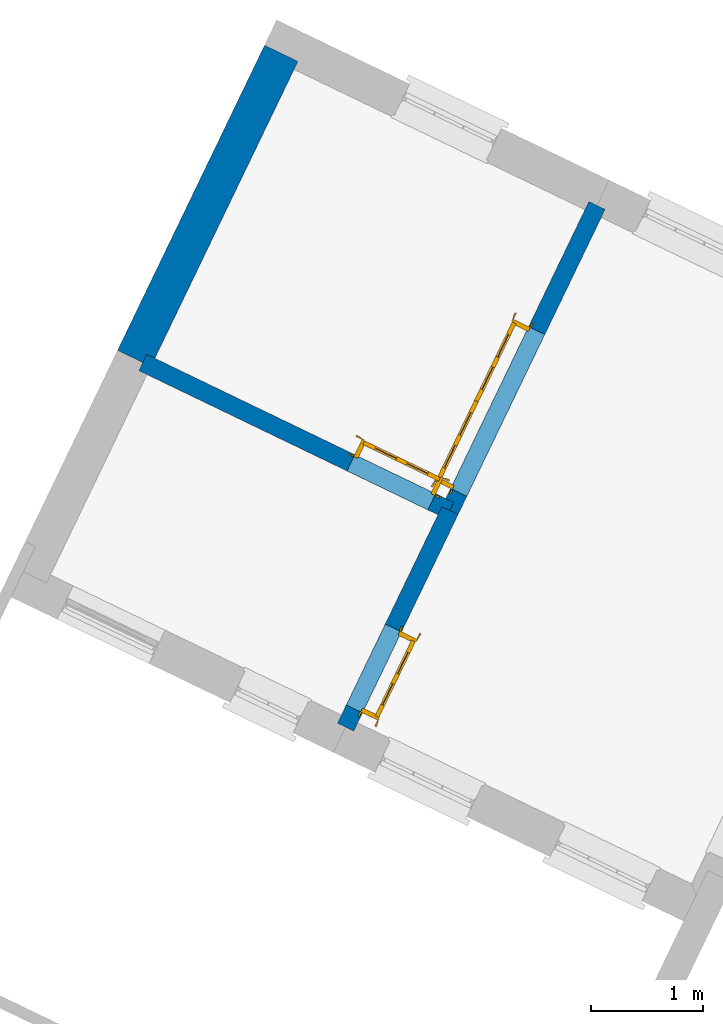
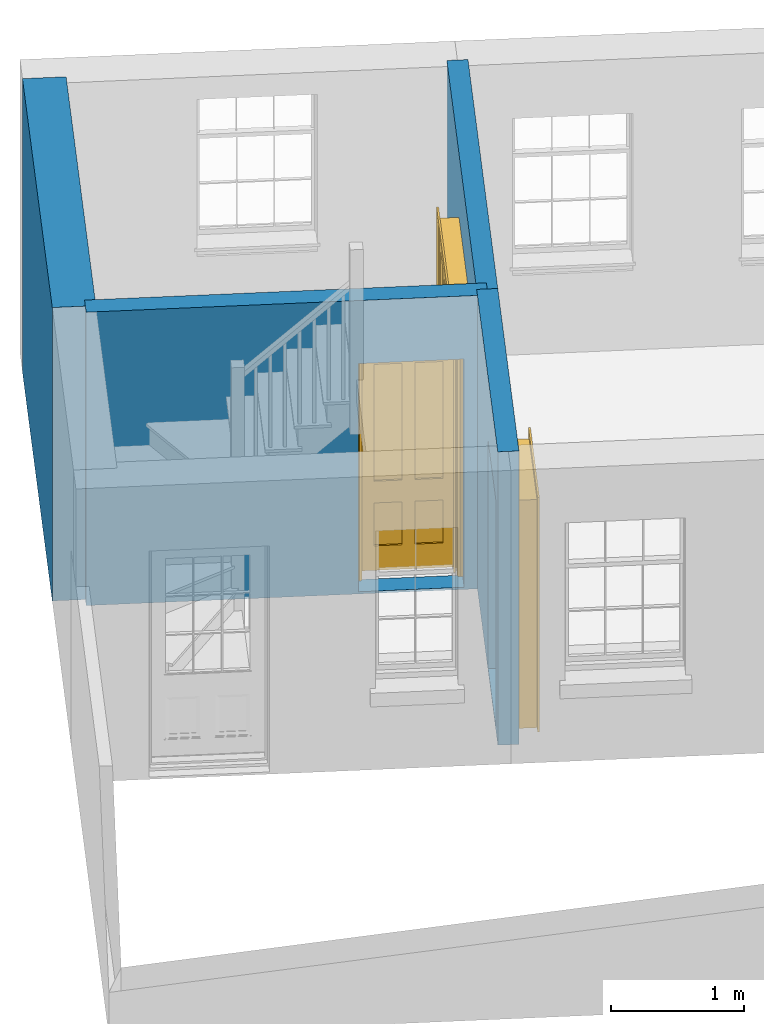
# One storey, part 3 of 5: 4 walls, 3 doors, 3 openings.
"""IFC4 building model written with IfcOpenShell, lengths in metres."""

from ifc_helpers import new_model, si_unit, frame, origin, origin_with_axes, place, context, subcontext, project, spatial, polyline, outline, extrude, faceted_brep, source, transform, mapped, material, layer, layer_set, layer_usage, type_object, type_shapes, element, fill, save


model = new_model("IFC4")

# Units and contexts
model_context = context("Model", 3, world=origin_with_axes())
body_context = subcontext(model_context, "Body", "Model", "MODEL_VIEW")
ifc_project = project(units=[si_unit("PLANEANGLEUNIT", "RADIAN"), si_unit("MASSUNIT", "GRAM", prefix="KILO"), si_unit("FORCEUNIT", "NEWTON", prefix="KILO"), si_unit("LENGTHUNIT", "METRE"), si_unit("AREAUNIT", "SQUARE_METRE"), si_unit("VOLUMEUNIT", "CUBIC_METRE")], contexts=[model_context, model_context])

# Sites, building, storey
site_1_placement = place(None, origin_with_axes())
site_1 = spatial("IfcSite", under=ifc_project, at=site_1_placement, Name="Tamar")
site_2_placement = place(site_1_placement, origin_with_axes())
site_2 = spatial("IfcSite", under=site_1, at=site_2_placement, Name="Site plot-2", CompositionType="ELEMENT")
building_placement = place(None, origin_with_axes())
building = spatial("IfcBuilding", under=site_2, at=building_placement, Name="Building plot-2", CompositionType="ELEMENT")
storey_placement = place(None, frame((0.0, 0.0, 26.0), z_axis=(0.0, 0.0, 1.0), x_axis=(1.0, 0.0, 0.0)))
storey = spatial("IfcBuildingStorey", under=building, at=storey_placement, Name="plot-2 0", CompositionType="ELEMENT", Elevation=26.0)

# Wall
ifc_material_1 = material(Name="Masonry")
ifc_layer_1 = layer(ifc_material_1, 0.33, ventilated=False)
ifc_layer_set_1 = layer_set([ifc_layer_1], Name="party_0.08_0.25")
ifc_layer_usage_1 = layer_usage(ifc_layer_set_1, "AXIS2", "POSITIVE", -0.25)
wall_type_1 = type_object("IfcWallType", Name="party_0.08_0.25", PredefinedType="SOLIDWALL", material=ifc_layer_set_1)
wall_1_placement = place(storey_placement, frame((229.956443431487, 295.955615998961, 0.0), z_axis=(0.0, 0.0, 1.0), x_axis=(-0.43411738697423, -0.900856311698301, 0.0)))
element("IfcWall", 1, at=wall_1_placement, inside=storey, type_object=wall_type_1, material=ifc_layer_usage_1, Name="party", context=body_context, shape_type="SweptSolid", body=[
    extrude(outline(polyline([(-1.26623564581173e-14, 0.0799999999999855), (-2.62969775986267e-14, -0.249999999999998), (3.01696753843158, -0.249999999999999), (3.01696753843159, 0.0799999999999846), (-1.26623564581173e-14, 0.0799999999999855)])), origin_with_axes(), (0.0, 0.0, 1.0), 2.7),
])

# Wall, opening, door
ifc_material_2 = material(Name="Masonry")
ifc_layer_2 = layer(ifc_material_2, 0.16, ventilated=False)
ifc_layer_set_2 = layer_set([ifc_layer_2], Name="interior_0.08_0.08")
ifc_layer_usage_2 = layer_usage(ifc_layer_set_2, "AXIS2", "POSITIVE", -0.08)
wall_type_2 = type_object("IfcWallType", Name="interior_0.08_0.08", PredefinedType="SOLIDWALL", material=ifc_layer_set_2)
wall_2_placement = place(storey_placement, frame((228.646725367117, 293.237761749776, 0.0), z_axis=(0.0, 0.0, 1.0), x_axis=(0.900856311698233, -0.434117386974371, 0.0)))
wall_2 = element("IfcWall", 2, at=wall_2_placement, inside=storey, type_object=wall_type_2, material=ifc_layer_usage_2, Name="interior", context=body_context, shape_type="SweptSolid", body=[
    extrude(outline(polyline([(-1.18611651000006e-14, 0.0800000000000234), (1.18513679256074e-14, -0.0800000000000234), (3.03765432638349, -0.0800000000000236), (3.03765432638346, 0.0800000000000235), (-1.18611651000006e-14, 0.0800000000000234)])), origin_with_axes(), (0.0, 0.0, 1.0), 2.7),
])
opening_1_placement = place(wall_2_placement, frame((2.05765432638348, 0.0, 0.0199999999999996)))
opening_1 = element("IfcOpeningElement", 3, at=opening_1_placement, cuts=wall_2, Name="My Opening", ObjectType="Opening", context=body_context, shape_type="SweptSolid", body=[
    extrude(outline(polyline([(0.0, -0.100000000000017), (0.800000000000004, -0.100000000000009), (0.800000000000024, 1.1), (1.99840144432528e-14, 1.09999999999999), (0.0, -0.100000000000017)])), origin_with_axes(), (0.0, 0.0, 1.0), 2.1),
])
door_type_1 = type_object("IfcDoorType", Name="door_inside", OperationType="SINGLE_SWING_LEFT", PredefinedType="NOTDEFINED")
shared_shape_1 = source(origin(), body_context, "Body", "Brep", [
    faceted_brep([(0.773, 0.33, 1.895), (0.66, 0.33, 1.895), (0.66, 0.33, 2.073), (0.773, 0.33, 2.073), (0.773, 0.33, 0.82), (0.66, 0.33, 0.82), (0.45, 0.33, 1.895), (0.45, 0.33, 2.073), (0.773, 0.33, 0.62), (0.66, 0.33, 0.62), (0.66, 0.315, 0.82), (0.66, 0.315, 1.895), (0.45, 0.315, 1.895), (0.35, 0.33, 1.895), (0.35, 0.33, 2.073), (0.773, 0.33, 0.225), (0.66, 0.33, 0.225), (0.45, 0.33, 0.62), (0.45, 0.33, 0.82), (0.45, 0.315, 0.82), (0.35, 0.33, 0.82), (0.14, 0.33, 2.073), (0.14, 0.33, 1.895), (0.773, 0.33, 0.0), (0.66, 0.33, 0.0), (0.66, 0.315, 0.225), (0.66, 0.315, 0.62), (0.45, 0.315, 0.62), (0.35, 0.33, 0.62), (0.35, 0.315, 0.82), (0.35, 0.315, 1.895), (0.14, 0.315, 1.895), (0.027, 0.33, 2.073), (0.027, 0.33, 1.895), (0.773, 0.292, 0.0), (0.66, 0.292, 0.0), (0.45, 0.33, 0.0), (0.45, 0.33, 0.225), (0.45, 0.315, 0.225), (0.35, 0.33, 0.225), (0.14, 0.33, 0.82), (0.14, 0.33, 0.62), (0.14, 0.315, 0.82), (0.027, 0.33, 0.82), (0.773, 0.292, 0.225), (0.66, 0.292, 0.225), (0.45, 0.292, 0.0), (0.35, 0.33, 0.0), (0.35, 0.315, 0.225), (0.35, 0.315, 0.62), (0.14, 0.315, 0.62), (0.027, 0.33, 0.62), (0.773, 0.292, 0.62), (0.66, 0.292, 0.62), (0.45, 0.292, 0.225), (0.35, 0.292, 0.0), (0.14, 0.33, 0.225), (0.14, 0.33, 0.0), (0.14, 0.315, 0.225), (0.027, 0.33, 0.225), (0.773, 0.292, 0.82), (0.66, 0.292, 0.82), (0.66, 0.307, 0.62), (0.66, 0.307, 0.225), (0.45, 0.307, 0.225), (0.35, 0.292, 0.225), (0.14, 0.292, 0.0), (0.027, 0.33, 0.0), (0.773, 0.292, 1.895), (0.66, 0.292, 1.895), (0.45, 0.292, 0.62), (0.45, 0.292, 0.82), (0.45, 0.307, 0.62), (0.35, 0.292, 0.62), (0.14, 0.292, 0.225), (0.027, 0.292, 0.0), (0.773, 0.292, 2.073), (0.66, 0.292, 2.073), (0.66, 0.307, 1.895), (0.66, 0.307, 0.82), (0.45, 0.307, 0.82), (0.35, 0.292, 0.82), (0.35, 0.307, 0.62), (0.35, 0.307, 0.225), (0.14, 0.307, 0.225), (0.027, 0.292, 0.225), (0.45, 0.292, 1.895), (0.45, 0.292, 2.073), (0.45, 0.307, 1.895), (0.35, 0.292, 1.895), (0.14, 0.292, 0.82), (0.14, 0.292, 0.62), (0.14, 0.307, 0.62), (0.027, 0.292, 0.62), (0.35, 0.292, 2.073), (0.35, 0.307, 1.895), (0.35, 0.307, 0.82), (0.14, 0.307, 0.82), (0.027, 0.292, 0.82), (0.14, 0.292, 2.073), (0.14, 0.292, 1.895), (0.14, 0.307, 1.895), (0.027, 0.292, 1.895), (0.027, 0.292, 2.073), (0.02, 0.335, 0.0), (0.005, 0.34, 0.0), (0.005, 0.34, 2.095), (0.02, 0.335, 2.08), (0.02, 0.33, 0.0), (0.0, 0.335, 0.0), (0.0, 0.335, 2.1), (0.795, 0.34, 2.095), (0.78, 0.335, 2.08), (0.02, 0.33, 2.08), (0.0, 0.33, 0.0), (-0.032, 0.345, 0.0), (-0.032, 0.345, 2.132), (0.8, 0.335, 2.1), (0.795, 0.34, 0.0), (0.78, 0.335, 0.0), (0.78, 0.33, 2.08), (0.04, 0.29, 0.0), (0.025, 0.29, 0.0), (0.025, 0.29, 2.075), (0.04, 0.29, 2.06), (-0.04, 0.34, 0.0), (-0.04, 0.34, 2.14), (0.832, 0.345, 2.132), (0.8, 0.335, 0.0), (0.78, 0.33, 0.0), (0.8, 0.33, 0.0), (0.86, 0.33, 0.0), (0.86, 0.33, 2.16), (0.8, 0.33, 2.1), (-0.06, 0.33, 2.16), (0.0, 0.33, 2.1), (-0.06, 0.33, 0.0), (-0.04, 0.345, 0.0), (-0.04, 0.345, 2.14), (0.84, 0.34, 2.14), (0.832, 0.345, 0.0), (0.84, 0.34, 0.0), (0.86, 0.345, 0.0), (0.86, 0.345, 2.16), (-0.06, 0.345, 2.16), (-0.06, 0.345, 0.0), (0.84, 0.345, 0.0), (0.84, 0.345, 2.14), (-0.025, 0.155, 0.0), (-0.025, 0.16, 0.0), (-0.025, 0.16, 2.125), (-0.025, 0.155, 2.125), (-0.017, 0.155, 0.0), (-0.017, 0.155, 2.117), (0.825, 0.16, 2.125), (0.825, 0.155, 2.125), (0.825, 0.155, 0.0), (0.845, 0.155, 0.0), (-0.045, 0.155, 2.145), (-0.045, 0.155, 0.0), (0.845, 0.155, 2.145), (0.015, 0.165, 0.0), (0.015, 0.165, 2.085), (0.817, 0.155, 2.117), (0.825, 0.16, 0.0), (0.845, 0.17, 0.0), (0.845, 0.17, 2.145), (-0.045, 0.17, 2.145), (-0.045, 0.17, 0.0), (0.02, 0.16, 0.0), (0.02, 0.16, 2.08), (0.785, 0.165, 2.085), (0.817, 0.155, 0.0), (0.8, 0.17, 0.0), (0.8, 0.17, 2.1), (0.0, 0.17, 2.1), (0.0, 0.17, 0.0), (0.035, 0.165, 0.0), (0.035, 0.165, 2.065), (0.78, 0.16, 2.08), (0.785, 0.165, 0.0), (0.775, 0.29, 2.075), (0.76, 0.29, 2.06), (0.035, 0.17, 2.065), (0.035, 0.17, 0.0), (0.765, 0.165, 2.065), (0.78, 0.16, 0.0), (0.765, 0.17, 0.0), (0.765, 0.17, 2.065), (0.765, 0.165, 0.0), (0.04, 0.17, 2.06), (0.04, 0.17, 0.0), (0.76, 0.17, 2.06), (0.76, 0.17, 0.0), (0.76, 0.29, 0.0), (0.775, 0.29, 0.0), (0.025, 0.33, 0.0), (0.025, 0.33, 2.075), (0.775, 0.33, 0.0), (0.775, 0.33, 2.075)], [[[0, 1, 2, 3]], [[1, 0, 4, 5]], [[1, 6, 7, 2]], [[8, 9, 5, 4]], [[1, 5, 10, 11]], [[6, 1, 11, 12]], [[6, 13, 14, 7]], [[15, 16, 9, 8]], [[9, 17, 18, 5]], [[5, 18, 19, 10]], [[10, 19, 12, 11]], [[18, 6, 12, 19]], [[18, 20, 13, 6]], [[21, 14, 13, 22]], [[23, 24, 16, 15]], [[9, 16, 25, 26]], [[17, 9, 26, 27]], [[17, 28, 20, 18]], [[13, 20, 29, 30]], [[22, 13, 30, 31]], [[32, 21, 22, 33]], [[34, 35, 24, 23]], [[24, 36, 37, 16]], [[16, 37, 38, 25]], [[25, 38, 27, 26]], [[37, 17, 27, 38]], [[37, 39, 28, 17]], [[40, 20, 28, 41]], [[20, 40, 42, 29]], [[31, 30, 29, 42]], [[40, 22, 31, 42]], [[33, 22, 40, 43]], [[35, 34, 44, 45]], [[35, 46, 36, 24]], [[36, 47, 39, 37]], [[28, 39, 48, 49]], [[41, 28, 49, 50]], [[43, 40, 41, 51]], [[45, 44, 52, 53]], [[46, 35, 45, 54]], [[46, 55, 47, 36]], [[56, 39, 47, 57]], [[39, 56, 58, 48]], [[50, 49, 48, 58]], [[56, 41, 50, 58]], [[51, 41, 56, 59]], [[53, 52, 60, 61]], [[45, 53, 62, 63]], [[54, 45, 63, 64]], [[55, 46, 54, 65]], [[55, 66, 57, 47]], [[59, 56, 57, 67]], [[61, 60, 68, 69]], [[70, 53, 61, 71]], [[53, 70, 72, 62]], [[72, 64, 63, 62]], [[70, 54, 64, 72]], [[65, 54, 70, 73]], [[65, 74, 66, 55]], [[67, 57, 66, 75]], [[69, 68, 76, 77]], [[61, 69, 78, 79]], [[71, 61, 79, 80]], [[73, 70, 71, 81]], [[65, 73, 82, 83]], [[74, 65, 83, 84]], [[74, 85, 75, 66]], [[86, 69, 77, 87]], [[69, 86, 88, 78]], [[88, 80, 79, 78]], [[86, 71, 80, 88]], [[81, 71, 86, 89]], [[73, 81, 90, 91]], [[73, 91, 92, 82]], [[83, 82, 92, 84]], [[91, 74, 84, 92]], [[91, 93, 85, 74]], [[89, 86, 87, 94]], [[81, 89, 95, 96]], [[90, 81, 96, 97]], [[90, 98, 93, 91]], [[94, 99, 100, 89]], [[89, 100, 101, 95]], [[101, 97, 96, 95]], [[100, 90, 97, 101]], [[100, 102, 98, 90]], [[99, 103, 102, 100]], [[32, 103, 99, 21]], [[102, 103, 32, 33]], [[98, 102, 33, 43]], [[21, 99, 94, 14]], [[94, 87, 7, 14]], [[7, 87, 77, 2]], [[76, 3, 2, 77]], [[43, 51, 93, 98]], [[51, 59, 85, 93]], [[67, 75, 85, 59]], [[34, 23, 15, 44]], [[44, 15, 8, 52]], [[52, 8, 4, 60]], [[0, 68, 60, 4]], [[0, 3, 76, 68]], [[104, 105, 106, 107]], [[104, 108, 109, 105]], [[105, 109, 110, 106]], [[107, 106, 111, 112]], [[107, 113, 108, 104]], [[114, 109, 108]], [[109, 115, 116, 110]], [[106, 110, 117, 111]], [[112, 111, 118, 119]], [[113, 107, 112, 120]], [[121, 122, 123, 124]], [[115, 109, 114, 125]], [[115, 125, 126, 116]], [[110, 116, 127, 117]], [[111, 117, 128, 118]], [[118, 128, 129, 119]], [[120, 112, 119, 129]], [[130, 129, 128]], [[130, 131, 132, 133]], [[133, 132, 134, 135]], [[135, 134, 136, 114]], [[136, 125, 114]], [[125, 137, 138, 126]], [[116, 126, 139, 127]], [[117, 127, 140, 128]], [[141, 130, 128, 140]], [[131, 130, 141]], [[131, 142, 143, 132]], [[132, 143, 144, 134]], [[134, 144, 145, 136]], [[137, 125, 136, 145]], [[143, 142, 146]], [[143, 146, 147]], [[137, 145, 144]], [[143, 147, 138]], [[138, 137, 144]], [[143, 138, 144]], [[126, 138, 147, 139]], [[127, 139, 141, 140]], [[142, 131, 141, 146]], [[139, 147, 146, 141]], [[148, 149, 150, 151]], [[149, 152, 153, 150]], [[151, 150, 154, 155]], [[155, 156, 157]], [[158, 159, 148]], [[158, 148, 151]], [[155, 157, 160]], [[158, 151, 155]], [[155, 160, 158]], [[152, 161, 162, 153]], [[150, 153, 163, 154]], [[155, 154, 164, 156]], [[156, 164, 165, 157]], [[157, 165, 166, 160]], [[160, 166, 167, 158]], [[158, 167, 168, 159]], [[161, 169, 170, 162]], [[153, 162, 171, 163]], [[154, 163, 172, 164]], [[165, 164, 173]], [[165, 173, 174, 166]], [[166, 174, 175, 167]], [[167, 175, 176, 168]], [[169, 177, 178, 170]], [[162, 170, 179, 171]], [[163, 171, 180, 172]], [[172, 180, 173, 164]], [[124, 123, 181, 182]], [[183, 178, 177, 184]], [[170, 178, 185, 179]], [[171, 179, 186, 180]], [[187, 173, 180]], [[185, 188, 187, 189]], [[188, 185, 178, 183]], [[179, 185, 189, 186]], [[189, 187, 180, 186]], [[190, 183, 184, 191]], [[192, 188, 183, 190]], [[191, 184, 122, 121]], [[124, 190, 191, 121]], [[193, 187, 188, 192]], [[182, 192, 190, 124]], [[184, 176, 122]], [[194, 195, 187, 193]], [[192, 182, 194, 193]], [[161, 176, 184]], [[114, 108, 122, 176]], [[173, 187, 195]], [[152, 149, 176, 161]], [[169, 161, 184, 177]], [[196, 122, 108]], [[176, 175, 135, 114]], [[173, 195, 129, 130]], [[176, 149, 168]], [[123, 122, 196, 197]], [[196, 108, 113, 197]], [[175, 174, 133, 135]], [[198, 129, 195]], [[133, 174, 173, 130]], [[159, 168, 149, 148]], [[181, 123, 197, 199]], [[197, 113, 120, 199]], [[199, 120, 129, 198]], [[195, 181, 199, 198]], [[195, 194, 182, 181]]]),
])
type_shapes(door_type_1, [shared_shape_1])
door_1_placement = place(storey_placement, frame((230.456964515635, 292.25441259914, 0.0199999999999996), z_axis=(0.0, 0.0, 1.0), x_axis=(0.720685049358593, -0.347293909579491, 0.0)))
door_1 = element("IfcDoor", 4, at=door_1_placement, inside=storey, type_object=door_type_1, Name="kitchen inside door", OverallHeight=2.1, OverallWidth=0.8, context=body_context, shape_type="MappedRepresentation", body=[
    mapped(shared_shape_1, transform((0.0, 0.0, 0.0), scale=1.0)),
])
fill(opening_1, door_1)

wall_3_placement = place(storey_placement, frame((231.383215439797, 291.919063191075, 0.0), z_axis=(0.0, 0.0, 1.0), x_axis=(0.434117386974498, 0.900856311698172, 0.0)))
wall_3 = element("IfcWall", 5, at=wall_3_placement, inside=storey, type_object=wall_type_2, material=ifc_layer_usage_2, Name="interior", context=body_context, shape_type="SweptSolid", body=[
    extrude(outline(polyline([(1.48019510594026e-14, 0.0800000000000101), (-1.47921538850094e-14, -0.0800000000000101), (3.01696753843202, -0.0800000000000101), (3.01696753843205, 0.0800000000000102), (1.48019510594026e-14, 0.0800000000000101)])), origin_with_axes(), (0.0, 0.0, 1.0), 2.7),
])
opening_2_placement = place(wall_3_placement, frame((0.180000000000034, 0.0, 0.0199999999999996)))
opening_2 = element("IfcOpeningElement", 6, at=opening_2_placement, cuts=wall_3, Name="My Opening", ObjectType="Opening", context=body_context, shape_type="SweptSolid", body=[
    extrude(outline(polyline([(0.0, -0.0999999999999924), (1.59999999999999, -0.0999999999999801), (1.59999999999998, 1.1), (-9.24260668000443e-15, 1.09999999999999), (0.0, -0.0999999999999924)])), origin_with_axes(), (0.0, 0.0, 1.0), 2.1),
])
door_type_2 = type_object("IfcDoorType", Name="door_inside_double", OperationType="SINGLE_SWING_LEFT", PredefinedType="NOTDEFINED")
shared_shape_2 = source(origin(), body_context, "Body", "Brep", [
    faceted_brep([(0.14, 0.307, 1.895), (0.14, 0.307, 0.82), (0.363, 0.307, 0.82), (0.363, 0.307, 1.895), (0.14, 0.292, 1.895), (0.14, 0.292, 0.82), (0.363, 0.292, 0.82), (0.363, 0.292, 1.895), (0.027, 0.292, 1.895), (0.027, 0.292, 0.82), (0.363, 0.292, 0.62), (0.14, 0.292, 0.62), (0.463, 0.292, 0.82), (0.463, 0.292, 1.895), (0.363, 0.292, 2.073), (0.14, 0.292, 2.073), (0.027, 0.292, 2.073), (0.027, 0.33, 1.895), (0.027, 0.33, 0.82), (0.027, 0.292, 0.62), (0.463, 0.292, 0.62), (0.14, 0.307, 0.62), (0.363, 0.307, 0.62), (0.463, 0.307, 0.82), (0.463, 0.307, 1.895), (0.463, 0.292, 2.073), (0.14, 0.33, 2.073), (0.363, 0.33, 2.073), (0.027, 0.33, 2.073), (0.14, 0.33, 1.895), (0.14, 0.33, 0.82), (0.027, 0.33, 0.62), (0.027, 0.292, 0.225), (0.14, 0.292, 0.225), (0.363, 0.292, 0.225), (0.463, 0.292, 0.225), (0.686, 0.292, 0.62), (0.686, 0.292, 0.82), (0.14, 0.307, 0.225), (0.363, 0.307, 0.225), (0.686, 0.307, 0.82), (0.686, 0.307, 1.895), (0.686, 0.292, 1.895), (0.686, 0.292, 2.073), (0.463, 0.33, 2.073), (0.363, 0.33, 1.895), (0.14, 0.315, 1.895), (0.14, 0.315, 0.82), (0.14, 0.33, 0.62), (0.027, 0.33, 0.225), (0.027, 0.292, 0.0), (0.14, 0.292, 0.0), (0.363, 0.292, 0.0), (0.463, 0.292, 0.0), (0.463, 0.307, 0.225), (0.463, 0.307, 0.62), (0.686, 0.307, 0.62), (0.799, 0.292, 0.62), (0.799, 0.292, 0.82), (0.799, 0.292, 1.895), (0.799, 0.292, 2.073), (0.686, 0.33, 2.073), (0.463, 0.33, 1.895), (0.363, 0.315, 1.895), (0.363, 0.315, 0.82), (0.363, 0.33, 0.82), (0.363, 0.33, 0.62), (0.14, 0.33, 0.225), (0.027, 0.33, 0.0), (0.14, 0.33, 0.0), (0.363, 0.33, 0.0), (0.463, 0.33, 0.0), (0.686, 0.292, 0.0), (0.686, 0.292, 0.225), (0.686, 0.307, 0.225), (0.799, 0.292, 0.225), (0.799, 0.33, 0.62), (0.799, 0.33, 0.82), (0.799, 0.33, 1.895), (0.799, 0.33, 2.073), (0.686, 0.33, 1.895), (0.463, 0.33, 0.82), (0.463, 0.33, 0.62), (0.363, 0.315, 0.62), (0.14, 0.315, 0.62), (0.14, 0.315, 0.225), (0.363, 0.33, 0.225), (0.463, 0.33, 0.225), (0.686, 0.33, 0.0), (0.799, 0.292, 0.0), (0.799, 0.33, 0.225), (0.686, 0.33, 0.62), (0.686, 0.33, 0.82), (0.686, 0.315, 1.895), (0.463, 0.315, 1.895), (0.463, 0.315, 0.82), (0.363, 0.315, 0.225), (0.686, 0.33, 0.225), (0.799, 0.33, 0.0), (0.686, 0.315, 0.82), (0.463, 0.315, 0.62), (0.463, 0.315, 0.225), (0.686, 0.315, 0.62), (0.686, 0.315, 0.225), (1.46, 0.33, 1.895), (1.237, 0.33, 1.895), (1.237, 0.33, 2.073), (1.46, 0.33, 2.073), (1.46, 0.315, 1.895), (1.237, 0.315, 1.895), (1.137, 0.33, 1.895), (1.137, 0.33, 2.073), (1.237, 0.292, 2.073), (1.46, 0.292, 2.073), (1.573, 0.33, 1.895), (1.573, 0.33, 2.073), (1.46, 0.33, 0.82), (1.46, 0.315, 0.82), (1.237, 0.315, 0.82), (1.237, 0.33, 0.82), (1.137, 0.33, 0.82), (0.914, 0.33, 2.073), (0.914, 0.33, 1.895), (1.137, 0.292, 2.073), (1.237, 0.292, 1.895), (1.46, 0.292, 1.895), (1.573, 0.292, 2.073), (1.573, 0.33, 0.82), (1.573, 0.292, 1.895), (1.237, 0.33, 0.62), (1.137, 0.33, 0.62), (1.137, 0.315, 0.82), (1.137, 0.315, 1.895), (0.914, 0.292, 2.073), (0.914, 0.315, 1.895), (0.801, 0.33, 2.073), (0.801, 0.33, 1.895), (1.137, 0.292, 1.895), (1.237, 0.307, 1.895), (1.46, 0.307, 1.895), (1.573, 0.292, 0.82), (1.573, 0.33, 0.62), (1.46, 0.33, 0.62), (1.237, 0.33, 0.225), (1.137, 0.33, 0.225), (0.914, 0.33, 0.82), (0.914, 0.33, 0.62), (0.914, 0.315, 0.82), (0.801, 0.292, 2.073), (0.914, 0.292, 1.895), (0.801, 0.33, 0.82), (0.801, 0.292, 1.895), (1.137, 0.292, 0.82), (1.237, 0.292, 0.82), (1.237, 0.307, 0.82), (1.46, 0.307, 0.82), (1.46, 0.292, 0.82), (1.573, 0.292, 0.62), (1.573, 0.33, 0.225), (1.46, 0.33, 0.225), (1.46, 0.315, 0.62), (1.237, 0.315, 0.62), (1.237, 0.33, 0.0), (1.137, 0.33, 0.0), (1.137, 0.315, 0.225), (1.137, 0.315, 0.62), (1.237, 0.315, 0.225), (0.914, 0.315, 0.62), (0.801, 0.33, 0.62), (0.914, 0.307, 1.895), (1.137, 0.307, 1.895), (0.801, 0.292, 0.82), (1.137, 0.292, 0.62), (1.237, 0.292, 0.62), (1.137, 0.307, 0.82), (1.46, 0.292, 0.62), (1.573, 0.292, 0.225), (1.573, 0.33, 0.0), (1.46, 0.33, 0.0), (1.46, 0.315, 0.225), (1.237, 0.292, 0.0), (1.137, 0.292, 0.0), (0.914, 0.33, 0.225), (0.914, 0.33, 0.0), (0.914, 0.315, 0.225), (0.801, 0.33, 0.225), (0.801, 0.292, 0.62), (0.914, 0.292, 0.82), (0.914, 0.307, 0.82), (1.137, 0.292, 0.225), (1.237, 0.292, 0.225), (0.914, 0.292, 0.62), (1.46, 0.292, 0.225), (1.573, 0.292, 0.0), (1.46, 0.292, 0.0), (0.914, 0.292, 0.0), (0.801, 0.33, 0.0), (0.801, 0.292, 0.225), (1.237, 0.307, 0.225), (1.237, 0.307, 0.62), (1.137, 0.307, 0.62), (1.137, 0.307, 0.225), (1.46, 0.307, 0.62), (0.914, 0.307, 0.62), (1.46, 0.307, 0.225), (0.914, 0.292, 0.225), (0.801, 0.292, 0.0), (0.914, 0.307, 0.225), (0.02, 0.335, 0.0), (0.005, 0.34, 0.0), (0.005, 0.34, 2.095), (0.02, 0.335, 2.08), (0.02, 0.33, 0.0), (0.0, 0.335, 0.0), (0.0, 0.335, 2.1), (1.595, 0.34, 2.095), (1.58, 0.335, 2.08), (0.02, 0.33, 2.08), (0.0, 0.33, 0.0), (-0.032, 0.345, 0.0), (-0.032, 0.345, 2.132), (1.6, 0.335, 2.1), (1.595, 0.34, 0.0), (1.58, 0.335, 0.0), (1.58, 0.33, 2.08), (0.025, 0.33, 0.0), (0.025, 0.33, 2.075), (-0.04, 0.34, 0.0), (0.025, 0.29, 0.0), (0.0, 0.17, 0.0), (-0.04, 0.34, 2.14), (1.632, 0.345, 2.132), (1.6, 0.335, 0.0), (1.58, 0.33, 0.0), (1.575, 0.33, 2.075), (0.025, 0.29, 2.075), (-0.06, 0.33, 0.0), (0.035, 0.17, 0.0), (0.0, 0.17, 2.1), (0.0, 0.33, 2.1), (-0.04, 0.345, 0.0), (-0.04, 0.345, 2.14), (1.64, 0.34, 2.14), (1.632, 0.345, 0.0), (1.6, 0.33, 0.0), (1.575, 0.33, 0.0), (1.575, 0.29, 2.075), (0.04, 0.29, 0.0), (0.04, 0.29, 2.06), (-0.06, 0.345, 0.0), (-0.06, 0.33, 2.16), (0.015, 0.165, 0.0), (0.04, 0.17, 0.0), (-0.045, 0.17, 2.145), (-0.045, 0.17, 0.0), (1.6, 0.17, 2.1), (1.6, 0.33, 2.1), (-0.06, 0.345, 2.16), (1.64, 0.345, 2.14), (1.64, 0.34, 0.0), (1.6, 0.17, 0.0), (1.575, 0.29, 0.0), (1.56, 0.29, 2.06), (0.04, 0.17, 2.06), (1.66, 0.33, 2.16), (-0.017, 0.155, 0.0), (-0.025, 0.16, 0.0), (0.02, 0.16, 0.0), (0.035, 0.165, 0.0), (0.035, 0.17, 2.065), (1.645, 0.17, 2.145), (-0.045, 0.155, 2.145), (-0.045, 0.155, 0.0), (1.66, 0.345, 2.16), (1.64, 0.345, 0.0), (1.66, 0.33, 0.0), (1.565, 0.17, 0.0), (1.56, 0.29, 0.0), (1.56, 0.17, 2.06), (-0.017, 0.155, 2.117), (-0.025, 0.16, 2.125), (0.015, 0.165, 2.085), (0.02, 0.16, 2.08), (0.035, 0.165, 2.065), (1.565, 0.17, 2.065), (1.645, 0.17, 0.0), (1.645, 0.155, 2.145), (-0.025, 0.155, 0.0), (1.66, 0.345, 0.0), (1.585, 0.165, 0.0), (1.56, 0.17, 0.0), (1.617, 0.155, 2.117), (1.625, 0.16, 2.125), (-0.025, 0.155, 2.125), (1.585, 0.165, 2.085), (1.58, 0.16, 2.08), (1.565, 0.165, 2.065), (1.625, 0.16, 0.0), (1.645, 0.155, 0.0), (1.625, 0.155, 2.125), (1.617, 0.155, 0.0), (1.565, 0.165, 0.0), (1.58, 0.16, 0.0), (1.625, 0.155, 0.0)], [[[0, 1, 2, 3]], [[1, 0, 4, 5]], [[2, 1, 5, 6]], [[6, 7, 3, 2]], [[7, 4, 0, 3]], [[4, 8, 9, 5]], [[10, 6, 5, 11]], [[6, 12, 13, 7]], [[14, 15, 4, 7]], [[15, 16, 8, 4]], [[9, 8, 17, 18]], [[5, 9, 19, 11]], [[10, 20, 12, 6]], [[10, 11, 21, 22]], [[13, 12, 23, 24]], [[7, 13, 25, 14]], [[26, 15, 14, 27]], [[28, 16, 15, 26]], [[8, 16, 28, 17]], [[17, 29, 30, 18]], [[18, 31, 19, 9]], [[11, 19, 32, 33]], [[34, 35, 20, 10]], [[20, 36, 37, 12]], [[11, 33, 38, 21]], [[39, 22, 21, 38]], [[34, 10, 22, 39]], [[12, 37, 40, 23]], [[24, 23, 40, 41]], [[42, 13, 24, 41]], [[13, 42, 43, 25]], [[14, 25, 44, 27]], [[26, 27, 45, 29]], [[28, 26, 29, 17]], [[30, 29, 46, 47]], [[18, 30, 48, 31]], [[31, 49, 32, 19]], [[33, 32, 50, 51]], [[52, 53, 35, 34]], [[20, 35, 54, 55]], [[36, 20, 55, 56]], [[36, 57, 58, 37]], [[33, 34, 39, 38]], [[37, 42, 41, 40]], [[42, 59, 60, 43]], [[44, 25, 43, 61]], [[62, 45, 27, 44]], [[29, 45, 63, 46]], [[46, 63, 64, 47]], [[65, 30, 47, 64]], [[30, 65, 66, 48]], [[31, 48, 67, 49]], [[68, 50, 32, 49]], [[68, 69, 51, 50]], [[34, 33, 51, 52]], [[53, 52, 70, 71]], [[53, 72, 73, 35]], [[35, 73, 74, 54]], [[55, 54, 74, 56]], [[73, 36, 56, 74]], [[73, 75, 57, 36]], [[57, 76, 77, 58]], [[37, 58, 59, 42]], [[78, 79, 60, 59]], [[60, 79, 61, 43]], [[80, 62, 44, 61]], [[81, 65, 45, 62]], [[45, 65, 64, 63]], [[82, 66, 65, 81]], [[48, 66, 83, 84]], [[67, 48, 84, 85]], [[49, 67, 69, 68]], [[52, 51, 69, 70]], [[71, 70, 86, 87]], [[72, 53, 71, 88]], [[72, 89, 75, 73]], [[75, 90, 76, 57]], [[76, 91, 92, 77]], [[78, 59, 58, 77]], [[78, 80, 61, 79]], [[62, 80, 93, 94]], [[81, 62, 94, 95]], [[87, 86, 66, 82]], [[91, 82, 81, 92]], [[66, 86, 96, 83]], [[84, 83, 96, 85]], [[86, 67, 85, 96]], [[67, 86, 70, 69]], [[88, 71, 87, 97]], [[89, 72, 88, 98]], [[89, 98, 90, 75]], [[90, 97, 91, 76]], [[80, 78, 77, 92]], [[80, 92, 99, 93]], [[99, 95, 94, 93]], [[92, 81, 95, 99]], [[87, 82, 100, 101]], [[82, 91, 102, 100]], [[97, 87, 101, 103]], [[98, 88, 97, 90]], [[91, 97, 103, 102]], [[103, 101, 100, 102]], [[104, 105, 106, 107]], [[105, 104, 108, 109]], [[105, 110, 111, 106]], [[106, 112, 113, 107]], [[114, 104, 107, 115]], [[104, 116, 117, 108]], [[117, 118, 109, 108]], [[119, 105, 109, 118]], [[119, 120, 110, 105]], [[121, 111, 110, 122]], [[123, 112, 106, 111]], [[124, 125, 113, 112]], [[126, 115, 107, 113]], [[104, 114, 127, 116]], [[114, 115, 126, 128]], [[116, 119, 118, 117]], [[129, 130, 120, 119]], [[110, 120, 131, 132]], [[121, 133, 123, 111]], [[122, 110, 132, 134]], [[135, 121, 122, 136]], [[137, 124, 112, 123]], [[125, 124, 138, 139]], [[125, 128, 126, 113]], [[114, 128, 140, 127]], [[141, 142, 116, 127]], [[142, 129, 119, 116]], [[143, 144, 130, 129]], [[145, 120, 130, 146]], [[120, 145, 147, 131]], [[134, 132, 131, 147]], [[135, 148, 133, 121]], [[123, 133, 149, 137]], [[145, 122, 134, 147]], [[136, 122, 145, 150]], [[151, 148, 135, 136]], [[152, 153, 124, 137]], [[124, 153, 154, 138]], [[138, 154, 155, 139]], [[156, 125, 139, 155]], [[156, 140, 128, 125]], [[157, 141, 127, 140]], [[158, 159, 142, 141]], [[129, 142, 160, 161]], [[162, 163, 144, 143]], [[130, 144, 164, 165]], [[143, 129, 161, 166]], [[146, 130, 165, 167]], [[150, 145, 146, 168]], [[133, 148, 151, 149]], [[137, 149, 169, 170]], [[171, 151, 136, 150]], [[172, 173, 153, 152]], [[152, 137, 170, 174]], [[153, 156, 155, 154]], [[175, 157, 140, 156]], [[176, 158, 141, 157]], [[177, 178, 159, 158]], [[142, 159, 179, 160]], [[179, 166, 161, 160]], [[180, 181, 163, 162]], [[182, 144, 163, 183]], [[178, 162, 143, 159]], [[144, 182, 184, 164]], [[167, 165, 164, 184]], [[159, 143, 166, 179]], [[182, 146, 167, 184]], [[168, 146, 182, 185]], [[150, 168, 186, 171]], [[149, 151, 171, 187]], [[149, 187, 188, 169]], [[169, 188, 174, 170]], [[189, 190, 173, 172]], [[173, 175, 156, 153]], [[172, 152, 187, 191]], [[187, 152, 174, 188]], [[192, 176, 157, 175]], [[193, 177, 158, 176]], [[193, 194, 178, 177]], [[181, 180, 190, 189]], [[181, 195, 183, 163]], [[194, 180, 162, 178]], [[185, 182, 183, 196]], [[168, 185, 197, 186]], [[187, 171, 186, 191]], [[173, 190, 198, 199]], [[189, 172, 200, 201]], [[175, 173, 199, 202]], [[172, 191, 203, 200]], [[194, 193, 176, 192]], [[192, 175, 202, 204]], [[180, 194, 192, 190]], [[189, 205, 195, 181]], [[196, 183, 195, 206]], [[196, 206, 197, 185]], [[191, 186, 197, 205]], [[190, 192, 204, 198]], [[199, 198, 204, 202]], [[201, 200, 203, 207]], [[205, 189, 201, 207]], [[191, 205, 207, 203]], [[205, 197, 206, 195]], [[208, 209, 210, 211]], [[208, 212, 213, 209]], [[209, 213, 214, 210]], [[211, 210, 215, 216]], [[211, 217, 212, 208]], [[218, 213, 212]], [[213, 219, 220, 214]], [[210, 214, 221, 215]], [[216, 215, 222, 223]], [[217, 211, 216, 224]], [[225, 212, 217, 226]], [[219, 213, 218, 227]], [[218, 212, 228, 229]], [[219, 227, 230, 220]], [[214, 220, 231, 221]], [[215, 221, 232, 222]], [[222, 232, 233, 223]], [[224, 216, 223, 233]], [[226, 217, 224, 234]], [[225, 228, 212]], [[235, 228, 225, 226]], [[236, 227, 218]], [[237, 229, 228]], [[229, 238, 239, 218]], [[227, 240, 241, 230]], [[220, 230, 242, 231]], [[221, 231, 243, 232]], [[244, 233, 232]], [[234, 224, 233, 245]], [[246, 235, 226, 234]], [[247, 228, 235, 248]], [[240, 227, 236, 249]], [[239, 250, 236, 218]], [[251, 229, 237]], [[252, 237, 228, 247]], [[253, 238, 229, 254]], [[238, 255, 256, 239]], [[241, 240, 257]], [[230, 241, 258, 242]], [[231, 242, 259, 243]], [[259, 244, 232, 243]], [[260, 261, 233, 244]], [[245, 233, 261]], [[261, 246, 234, 245]], [[248, 235, 246, 262]], [[248, 263, 252, 247]], [[250, 257, 249, 236]], [[240, 249, 257]], [[256, 264, 250, 239]], [[265, 266, 229, 251]], [[267, 251, 237, 268]], [[263, 269, 237, 252]], [[270, 255, 238, 253]], [[229, 266, 254]], [[271, 253, 254, 272]], [[256, 255, 260, 244]], [[273, 241, 257]], [[273, 258, 241]], [[242, 258, 274, 259]], [[275, 244, 259]], [[260, 276, 261]], [[261, 277, 262, 246]], [[262, 278, 263, 248]], [[264, 273, 257, 250]], [[244, 275, 264, 256]], [[266, 265, 279, 280]], [[265, 251, 281, 279]], [[251, 267, 282, 281]], [[269, 283, 268, 237]], [[267, 268, 283, 282]], [[278, 284, 269, 263]], [[285, 260, 255, 270]], [[286, 270, 253, 271]], [[272, 254, 266, 287]], [[271, 272, 287]], [[273, 274, 258]], [[288, 275, 259, 274]], [[276, 260, 289]], [[277, 261, 276, 290]], [[278, 262, 277, 290]], [[275, 288, 273, 264]], [[280, 279, 291, 292]], [[287, 266, 280, 293]], [[279, 281, 294, 291]], [[281, 282, 295, 294]], [[284, 296, 283, 269]], [[282, 283, 296, 295]], [[290, 276, 284, 278]], [[285, 297, 260]], [[298, 285, 270, 286]], [[299, 286, 271]], [[271, 287, 293]], [[273, 288, 274]], [[300, 289, 260, 297]], [[301, 276, 289, 302]], [[292, 291, 300, 297]], [[293, 280, 292, 299]], [[291, 294, 289, 300]], [[294, 295, 302, 289]], [[296, 284, 276, 301]], [[295, 296, 301, 302]], [[303, 297, 285, 298]], [[299, 298, 286]], [[271, 293, 299]], [[299, 292, 297, 303]], [[299, 303, 298]]]),
])
type_shapes(door_type_2, [shared_shape_2])
door_2_placement = place(storey_placement, frame((231.551442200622, 292.037805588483, 0.0199999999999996), z_axis=(0.0, 0.0, 1.0), x_axis=(0.694587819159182, 1.44137009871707, 0.0)))
door_2 = element("IfcDoor", 7, at=door_2_placement, inside=storey, type_object=door_type_2, Name="kitchen living inside door", OverallHeight=2.1, OverallWidth=1.6, context=body_context, shape_type="MappedRepresentation", body=[
    mapped(shared_shape_2, transform((0.0, 0.0, 0.0), scale=1.0)),
])
fill(opening_2, door_2)

wall_4_placement = place(storey_placement, frame((231.383215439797, 291.919063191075, 0.0), z_axis=(0.0, 0.0, 1.0), x_axis=(-0.434117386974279, -0.900856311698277, 0.0)))
wall_4 = element("IfcWall", 8, at=wall_4_placement, inside=storey, type_object=wall_type_2, material=ifc_layer_usage_2, Name="interior", context=body_context, shape_type="SweptSolid", body=[
    extrude(outline(polyline([(-1.69966671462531e-14, 0.0799999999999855), (1.69513428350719e-14, -0.0799999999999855), (2.14111007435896, -0.0799999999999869), (2.14111007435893, 0.0799999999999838), (-1.69966671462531e-14, 0.0799999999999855)])), origin_with_axes(), (0.0, 0.0, 1.0), 2.7),
])
opening_3_placement = place(wall_4_placement, frame((1.16111007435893, 0.0, 0.0199999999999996)))
opening_3 = element("IfcOpeningElement", 9, at=opening_3_placement, cuts=wall_4, Name="My Opening", ObjectType="Opening", context=body_context, shape_type="SweptSolid", body=[
    extrude(outline(polyline([(0.0, -0.100000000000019), (0.800000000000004, -0.100000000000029), (0.800000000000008, 1.1), (3.5527136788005e-15, 1.10000000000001), (0.0, -0.100000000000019)])), origin_with_axes(), (0.0, 0.0, 1.0), 2.1),
])
door_3_placement = place(storey_placement, frame((230.789071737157, 290.91648159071, 0.0199999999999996), z_axis=(0.0, 0.0, 1.0), x_axis=(-0.347293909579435, -0.720685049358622, 0.0)))
door_3 = element("IfcDoor", 10, at=door_3_placement, inside=storey, type_object=door_type_1, Name="living inside door", OverallHeight=2.1, OverallWidth=0.8, context=body_context, shape_type="MappedRepresentation", body=[
    mapped(shared_shape_1, transform((0.0, 0.0, 0.0), scale=1.0)),
])
fill(opening_3, door_3)

save(model, "model.ifc")
